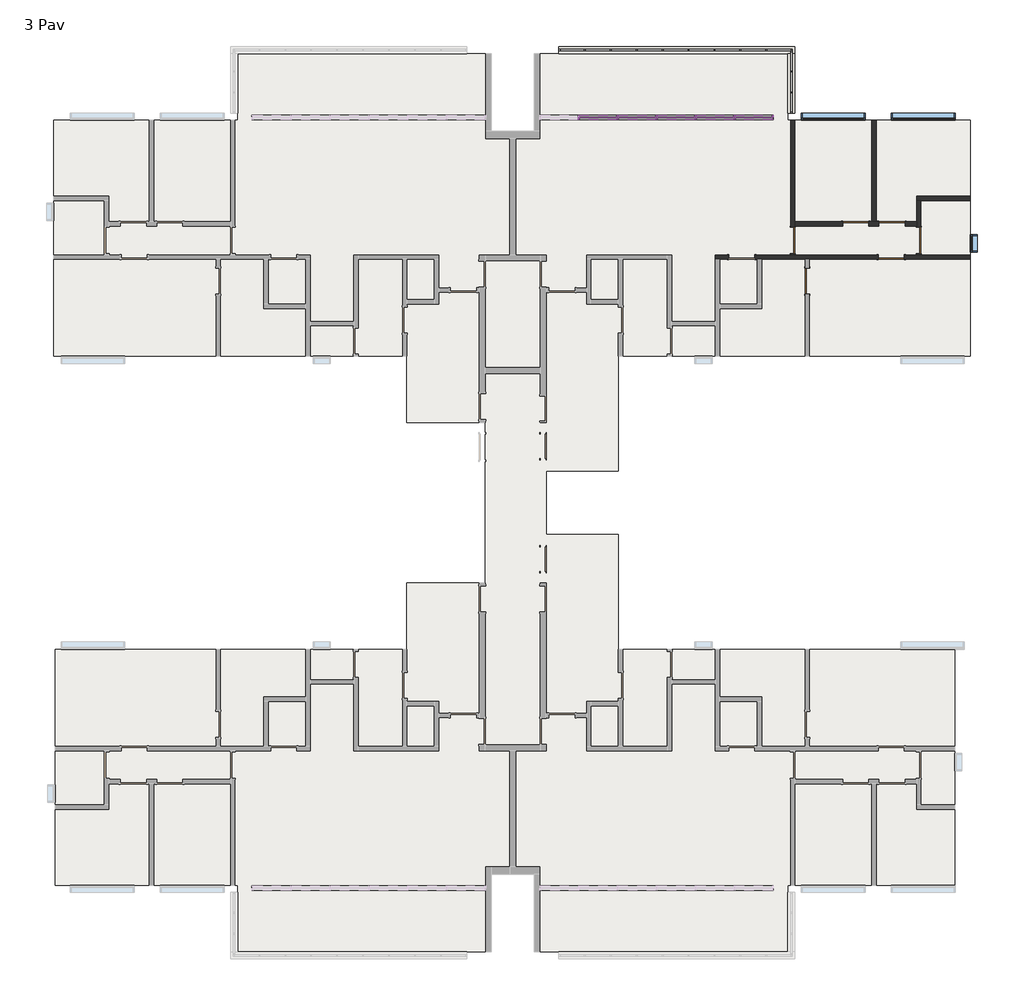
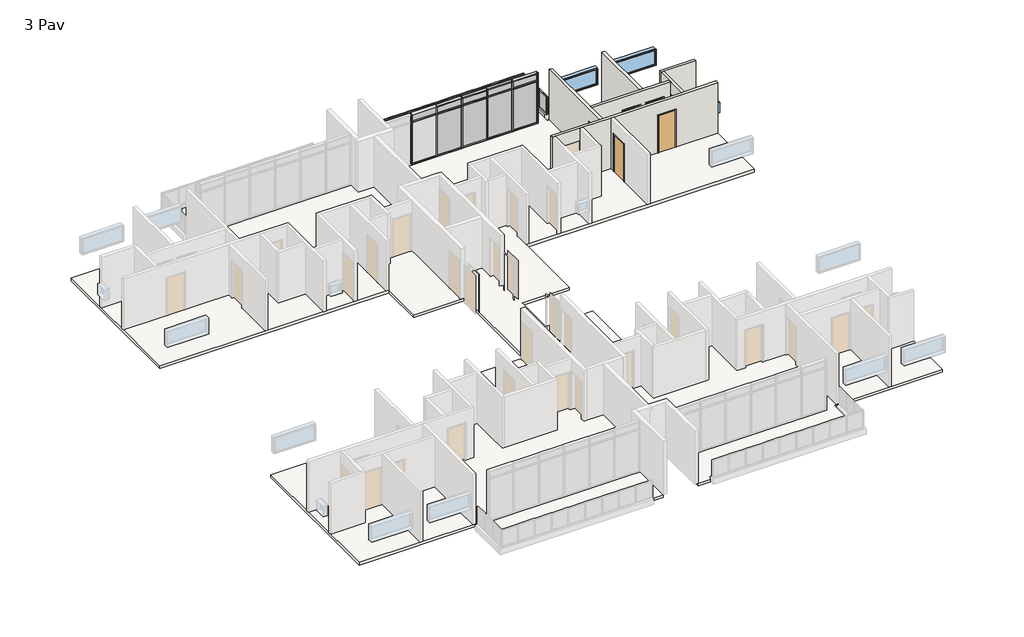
# One storey, part 6 of 6: 64 members, 21 plates, 8 walls, 6 doors, 3 windows, 1 slab.
"""IFC4 building model written with IfcOpenShell, lengths in millimetres."""

from ifc_helpers import new_model, si_unit, frame, origin, place, context, project, spatial, polyline, outline, extrude, faceted_brep, transform, mapped, element, save
from components import door_90_x_210_ee935524, door_90_x_210_565370b3, montante_retangular_50_mm_quadrado_84e40a56, montante_retangular_50_mm_quadrado_3d152aff, montante_retangular_50_mm_quadrado_a01005a4, montante_retangular_50_mm_quadrado_ddd80bd7, montante_retangular_50_mm_quadrado_4acded50, montante_retangular_50_mm_quadrado_237d7072, montante_retangular_50_x_150_mm_6217edde, montante_retangular_50_x_150_mm_a22249d7, montante_retangular_50_x_150_mm_6225e4e3, montante_retangular_50_x_150_mm_0a8c3443, montante_retangular_50_x_150_mm_567eccab, montante_retangular_50_x_150_mm_1ca2bba2, montante_retangular_50_x_150_mm_6abf4531, montante_retangular_50_x_150_mm_662c37b1, painel_do_sistema_0196877a, painel_do_sistema_2aa81470, painel_do_sistema_57ceaf50, painel_do_sistema_ab0ed719, painel_do_sistema_1ecb5f42, painel_do_sistema_49db1829, painel_do_sistema_5ea5287b, painel_do_sistema_7730abee, window_0610_x_0610_mm_b5667cc9, window_220_x_90_cea65aae

model = new_model("IFC4")

# Units and contexts
model_context = context("Model", 3, world=origin())
ifc_project = project(units=[si_unit("LENGTHUNIT", "METRE", prefix="MILLI")], contexts=[model_context])

# Site, building, storey
site = spatial("IfcSite", under=ifc_project)
building = spatial("IfcBuilding", under=site)
storey = spatial("IfcBuildingStorey", under=building, Name="3 Pav", Elevation=9000.0)

# Doors
placement = place(None, origin())
door_90_x_210_shape = door_90_x_210_ee935524(model_context)
element("IfcDoor", 1, ObjectType="M_Descarga simples : 90 x 210", at=placement, inside=storey, context=model_context, shape_type="MappedRepresentation", body=[
    mapped(door_90_x_210_shape, transform((9138.7734258, 8433.6614625, 9000.0), x_axis=(0.0, 1.0, 0.0), y_axis=(-1.0, 0.0, 0.0), z_axis=(0.0, 0.0, 1.0))),
])
element("IfcDoor", 2, ObjectType="M_Descarga simples : 90 x 210", at=placement, inside=storey, context=model_context, shape_type="MappedRepresentation", body=[
    mapped(door_90_x_210_shape, transform((8638.7734258, 9833.6614625, 9000.0), x_axis=(0.0, -1.0, 0.0), y_axis=(1.0, 0.0, 0.0), z_axis=(0.0, 0.0, 1.0))),
])
element("IfcDoor", 3, ObjectType="M_Descarga simples : 90 x 210", at=placement, inside=storey, context=model_context, shape_type="MappedRepresentation", body=[
    mapped(door_90_x_210_shape, transform((12988.7734258, 9833.6614625, 9000.0), x_axis=(0.0, -1.0, 0.0), y_axis=(1.0, 0.0, 0.0), z_axis=(0.0, 0.0, 1.0))),
])
element("IfcDoor", 4, ObjectType="M_Descarga simples : 90 x 210", at=placement, inside=storey, context=model_context, shape_type="MappedRepresentation", body=[
    mapped(door_90_x_210_shape, transform((10813.7734258, 10408.6614625, 9000.0), x_axis=(1.0, 0.0, 0.0), y_axis=(0.0, 1.0, 0.0), z_axis=(0.0, 0.0, 1.0))),
])
door_90_x_210_2_shape = door_90_x_210_565370b3(model_context)
element("IfcDoor", 5, ObjectType="M_Descarga simples : 90 x 210", at=placement, inside=storey, context=model_context, shape_type="MappedRepresentation", body=[
    mapped(door_90_x_210_2_shape, transform((12063.7734258, 10408.6614625, 9000.0), x_axis=(-1.0, 0.0, 0.0), y_axis=(0.0, -1.0, 0.0), z_axis=(0.0, 0.0, 1.0))),
])
element("IfcDoor", 6, ObjectType="M_Descarga simples : 90 x 210", at=placement, inside=storey, context=model_context, shape_type="MappedRepresentation", body=[
    mapped(door_90_x_210_2_shape, transform((12043.7734258, 9258.6614625, 9000.0), x_axis=(1.0, 0.0, 0.0), y_axis=(0.0, 1.0, 0.0), z_axis=(0.0, 0.0, 1.0))),
])

# Members
montante_retangular_50_mm_quadrado_shape = montante_retangular_50_mm_quadrado_84e40a56(model_context)
element("IfcMember", 7, ObjectType="Montante retangular : 50 mm Quadrado", at=placement, inside=storey, context=model_context, shape_type="MappedRepresentation", body=[
    mapped(montante_retangular_50_mm_quadrado_shape, transform((8588.7734258, 15663.6614625, 9150.0), x_axis=(0.0, -1.0, 0.0), y_axis=(-1.0, 0.0, 0.0), z_axis=(0.0, 0.0, -1.0))),
])
element("IfcMember", 8, ObjectType="Montante retangular : 50 mm Quadrado", at=placement, inside=storey, context=model_context, shape_type="MappedRepresentation", body=[
    mapped(montante_retangular_50_mm_quadrado_shape, transform((8588.7734258, 14948.6614625, 9150.0), x_axis=(0.0, -1.0, 0.0), y_axis=(-1.0, 0.0, 0.0), z_axis=(0.0, 0.0, -1.0))),
])
element("IfcMember", 9, ObjectType="Montante retangular : 50 mm Quadrado", at=placement, inside=storey, context=model_context, shape_type="MappedRepresentation", body=[
    mapped(montante_retangular_50_mm_quadrado_shape, transform((1453.7734258, 16403.6614625, 9150.0), x_axis=(1.0, 0.0, 0.0), y_axis=(0.0, -1.0, 0.0), z_axis=(0.0, 0.0, -1.0))),
])
element("IfcMember", 10, ObjectType="Montante retangular : 50 mm Quadrado", at=placement, inside=storey, context=model_context, shape_type="MappedRepresentation", body=[
    mapped(montante_retangular_50_mm_quadrado_shape, transform((2348.7734258, 16403.6614625, 9150.0), x_axis=(1.0, 0.0, 0.0), y_axis=(0.0, -1.0, 0.0), z_axis=(0.0, 0.0, -1.0))),
])
element("IfcMember", 11, ObjectType="Montante retangular : 50 mm Quadrado", at=placement, inside=storey, context=model_context, shape_type="MappedRepresentation", body=[
    mapped(montante_retangular_50_mm_quadrado_shape, transform((3243.7734258, 16403.6614625, 9150.0), x_axis=(1.0, 0.0, 0.0), y_axis=(0.0, -1.0, 0.0), z_axis=(0.0, 0.0, -1.0))),
])
element("IfcMember", 12, ObjectType="Montante retangular : 50 mm Quadrado", at=placement, inside=storey, context=model_context, shape_type="MappedRepresentation", body=[
    mapped(montante_retangular_50_mm_quadrado_shape, transform((4138.7734258, 16403.6614625, 9150.0), x_axis=(1.0, 0.0, 0.0), y_axis=(0.0, -1.0, 0.0), z_axis=(0.0, 0.0, -1.0))),
])
element("IfcMember", 13, ObjectType="Montante retangular : 50 mm Quadrado", at=placement, inside=storey, context=model_context, shape_type="MappedRepresentation", body=[
    mapped(montante_retangular_50_mm_quadrado_shape, transform((5033.7734258, 16403.6614625, 9150.0), x_axis=(1.0, 0.0, 0.0), y_axis=(0.0, -1.0, 0.0), z_axis=(0.0, 0.0, -1.0))),
])
element("IfcMember", 14, ObjectType="Montante retangular : 50 mm Quadrado", at=placement, inside=storey, context=model_context, shape_type="MappedRepresentation", body=[
    mapped(montante_retangular_50_mm_quadrado_shape, transform((5928.7734258, 16403.6614625, 9150.0), x_axis=(1.0, 0.0, 0.0), y_axis=(0.0, -1.0, 0.0), z_axis=(0.0, 0.0, -1.0))),
])
element("IfcMember", 15, ObjectType="Montante retangular : 50 mm Quadrado", at=placement, inside=storey, context=model_context, shape_type="MappedRepresentation", body=[
    mapped(montante_retangular_50_mm_quadrado_shape, transform((6823.7734258, 16403.6614625, 9150.0), x_axis=(1.0, 0.0, 0.0), y_axis=(0.0, -1.0, 0.0), z_axis=(0.0, 0.0, -1.0))),
])
element("IfcMember", 16, ObjectType="Montante retangular : 50 mm Quadrado", at=placement, inside=storey, context=model_context, shape_type="MappedRepresentation", body=[
    mapped(montante_retangular_50_mm_quadrado_shape, transform((7718.7734258, 16403.6614625, 9150.0), x_axis=(1.0, 0.0, 0.0), y_axis=(0.0, -1.0, 0.0), z_axis=(0.0, 0.0, -1.0))),
])
montante_retangular_50_mm_quadrado_2_shape = montante_retangular_50_mm_quadrado_3d152aff(model_context)
element("IfcMember", 17, ObjectType="Montante retangular : 50 mm Quadrado", at=placement, inside=storey, context=model_context, shape_type="MappedRepresentation", body=[
    mapped(montante_retangular_50_mm_quadrado_2_shape, transform((8588.7734258, 14233.6614625, 9150.0), x_axis=(0.0, -1.0, 0.0), y_axis=(-1.0, 0.0, 0.0), z_axis=(0.0, 0.0, -1.0))),
])
element("IfcMember", 18, ObjectType="Montante retangular : 50 mm Quadrado", at=placement, inside=storey, context=model_context, shape_type="MappedRepresentation", body=[
    mapped(montante_retangular_50_mm_quadrado_2_shape, transform((8613.7734258, 16403.6614625, 9150.0), x_axis=(1.0, 0.0, 0.0), y_axis=(0.0, -1.0, 0.0), z_axis=(0.0, 0.0, -1.0))),
])
element("IfcMember", 19, ObjectType="Montante retangular : 50 mm Quadrado", at=placement, inside=storey, context=model_context, shape_type="MappedRepresentation", body=[
    mapped(montante_retangular_50_mm_quadrado_2_shape, transform((8588.7734258, 16378.6614625, 10150.0), x_axis=(0.0, 1.0, 0.0), y_axis=(-1.0, 0.0, 0.0), z_axis=(0.0, 0.0, 1.0))),
])
element("IfcMember", 20, ObjectType="Montante retangular : 50 mm Quadrado", at=placement, inside=storey, context=model_context, shape_type="MappedRepresentation", body=[
    mapped(montante_retangular_50_mm_quadrado_2_shape, transform((558.7734258, 16403.6614625, 10150.0), x_axis=(-1.0, 0.0, 0.0), y_axis=(0.0, -1.0, 0.0), z_axis=(0.0, 0.0, 1.0))),
])
montante_retangular_50_mm_quadrado_3_shape = montante_retangular_50_mm_quadrado_a01005a4(model_context)
element("IfcMember", 21, ObjectType="Montante retangular : 50 mm Quadrado", at=placement, inside=storey, context=model_context, shape_type="MappedRepresentation", body=[
    mapped(montante_retangular_50_mm_quadrado_3_shape, transform((8588.7734258, 14283.6614625, 10150.0), x_axis=(0.0, 0.0, 1.0), y_axis=(-1.0, 0.0, 0.0), z_axis=(0.0, -1.0, 0.0))),
])
element("IfcMember", 22, ObjectType="Montante retangular : 50 mm Quadrado", at=placement, inside=storey, context=model_context, shape_type="MappedRepresentation", body=[
    mapped(montante_retangular_50_mm_quadrado_3_shape, transform((8588.7734258, 15688.6614625, 10150.0), x_axis=(0.0, 0.0, 1.0), y_axis=(-1.0, 0.0, 0.0), z_axis=(0.0, -1.0, 0.0))),
])
montante_retangular_50_mm_quadrado_4_shape = montante_retangular_50_mm_quadrado_ddd80bd7(model_context)
element("IfcMember", 23, ObjectType="Montante retangular : 50 mm Quadrado", at=placement, inside=storey, context=model_context, shape_type="MappedRepresentation", body=[
    mapped(montante_retangular_50_mm_quadrado_4_shape, transform((8588.7734258, 14973.6614625, 10150.0), x_axis=(0.0, 0.0, 1.0), y_axis=(-1.0, 0.0, 0.0), z_axis=(0.0, -1.0, 0.0))),
])
element("IfcMember", 24, ObjectType="Montante retangular : 50 mm Quadrado", at=placement, inside=storey, context=model_context, shape_type="MappedRepresentation", body=[
    mapped(montante_retangular_50_mm_quadrado_3_shape, transform((8588.7734258, 16328.6614625, 9150.0), x_axis=(0.0, 0.0, -1.0), y_axis=(-1.0, 0.0, 0.0), z_axis=(0.0, 1.0, 0.0))),
])
element("IfcMember", 25, ObjectType="Montante retangular : 50 mm Quadrado", at=placement, inside=storey, context=model_context, shape_type="MappedRepresentation", body=[
    mapped(montante_retangular_50_mm_quadrado_3_shape, transform((8588.7734258, 14923.6614625, 9150.0), x_axis=(0.0, 0.0, -1.0), y_axis=(-1.0, 0.0, 0.0), z_axis=(0.0, 1.0, 0.0))),
])
element("IfcMember", 26, ObjectType="Montante retangular : 50 mm Quadrado", at=placement, inside=storey, context=model_context, shape_type="MappedRepresentation", body=[
    mapped(montante_retangular_50_mm_quadrado_4_shape, transform((8588.7734258, 15638.6614625, 9150.0), x_axis=(0.0, 0.0, -1.0), y_axis=(-1.0, 0.0, 0.0), z_axis=(0.0, 1.0, 0.0))),
])
montante_retangular_50_mm_quadrado_5_shape = montante_retangular_50_mm_quadrado_4acded50(model_context)
element("IfcMember", 27, ObjectType="Montante retangular : 50 mm Quadrado", at=placement, inside=storey, context=model_context, shape_type="MappedRepresentation", body=[
    mapped(montante_retangular_50_mm_quadrado_5_shape, transform((8563.7734258, 16403.6614625, 10150.0), x_axis=(0.0, 0.0, 1.0), y_axis=(0.0, -1.0, 0.0), z_axis=(1.0, 0.0, 0.0))),
])
element("IfcMember", 28, ObjectType="Montante retangular : 50 mm Quadrado", at=placement, inside=storey, context=model_context, shape_type="MappedRepresentation", body=[
    mapped(montante_retangular_50_mm_quadrado_5_shape, transform((1428.7734258, 16403.6614625, 10150.0), x_axis=(0.0, 0.0, 1.0), y_axis=(0.0, -1.0, 0.0), z_axis=(1.0, 0.0, 0.0))),
])
montante_retangular_50_mm_quadrado_6_shape = montante_retangular_50_mm_quadrado_237d7072(model_context)
element("IfcMember", 29, ObjectType="Montante retangular : 50 mm Quadrado", at=placement, inside=storey, context=model_context, shape_type="MappedRepresentation", body=[
    mapped(montante_retangular_50_mm_quadrado_6_shape, transform((2323.7734258, 16403.6614625, 10150.0), x_axis=(0.0, 0.0, 1.0), y_axis=(0.0, -1.0, 0.0), z_axis=(1.0, 0.0, 0.0))),
])
element("IfcMember", 30, ObjectType="Montante retangular : 50 mm Quadrado", at=placement, inside=storey, context=model_context, shape_type="MappedRepresentation", body=[
    mapped(montante_retangular_50_mm_quadrado_6_shape, transform((3218.7734258, 16403.6614625, 10150.0), x_axis=(0.0, 0.0, 1.0), y_axis=(0.0, -1.0, 0.0), z_axis=(1.0, 0.0, 0.0))),
])
element("IfcMember", 31, ObjectType="Montante retangular : 50 mm Quadrado", at=placement, inside=storey, context=model_context, shape_type="MappedRepresentation", body=[
    mapped(montante_retangular_50_mm_quadrado_6_shape, transform((4113.7734258, 16403.6614625, 10150.0), x_axis=(0.0, 0.0, 1.0), y_axis=(0.0, -1.0, 0.0), z_axis=(1.0, 0.0, 0.0))),
])
element("IfcMember", 32, ObjectType="Montante retangular : 50 mm Quadrado", at=placement, inside=storey, context=model_context, shape_type="MappedRepresentation", body=[
    mapped(montante_retangular_50_mm_quadrado_6_shape, transform((5008.7734258, 16403.6614625, 10150.0), x_axis=(0.0, 0.0, 1.0), y_axis=(0.0, -1.0, 0.0), z_axis=(1.0, 0.0, 0.0))),
])
element("IfcMember", 33, ObjectType="Montante retangular : 50 mm Quadrado", at=placement, inside=storey, context=model_context, shape_type="MappedRepresentation", body=[
    mapped(montante_retangular_50_mm_quadrado_6_shape, transform((5903.7734258, 16403.6614625, 10150.0), x_axis=(0.0, 0.0, 1.0), y_axis=(0.0, -1.0, 0.0), z_axis=(1.0, 0.0, 0.0))),
])
element("IfcMember", 34, ObjectType="Montante retangular : 50 mm Quadrado", at=placement, inside=storey, context=model_context, shape_type="MappedRepresentation", body=[
    mapped(montante_retangular_50_mm_quadrado_6_shape, transform((6798.7734258, 16403.6614625, 10150.0), x_axis=(0.0, 0.0, 1.0), y_axis=(0.0, -1.0, 0.0), z_axis=(1.0, 0.0, 0.0))),
])
element("IfcMember", 35, ObjectType="Montante retangular : 50 mm Quadrado", at=placement, inside=storey, context=model_context, shape_type="MappedRepresentation", body=[
    mapped(montante_retangular_50_mm_quadrado_6_shape, transform((7693.7734258, 16403.6614625, 10150.0), x_axis=(0.0, 0.0, 1.0), y_axis=(0.0, -1.0, 0.0), z_axis=(1.0, 0.0, 0.0))),
])
element("IfcMember", 36, ObjectType="Montante retangular : 50 mm Quadrado", at=placement, inside=storey, context=model_context, shape_type="MappedRepresentation", body=[
    mapped(montante_retangular_50_mm_quadrado_5_shape, transform((608.7734258, 16403.6614625, 9150.0), x_axis=(0.0, 0.0, -1.0), y_axis=(0.0, -1.0, 0.0), z_axis=(-1.0, 0.0, 0.0))),
])
element("IfcMember", 37, ObjectType="Montante retangular : 50 mm Quadrado", at=placement, inside=storey, context=model_context, shape_type="MappedRepresentation", body=[
    mapped(montante_retangular_50_mm_quadrado_5_shape, transform((7743.7734258, 16403.6614625, 9150.0), x_axis=(0.0, 0.0, -1.0), y_axis=(0.0, -1.0, 0.0), z_axis=(-1.0, 0.0, 0.0))),
])
element("IfcMember", 38, ObjectType="Montante retangular : 50 mm Quadrado", at=placement, inside=storey, context=model_context, shape_type="MappedRepresentation", body=[
    mapped(montante_retangular_50_mm_quadrado_6_shape, transform((1478.7734258, 16403.6614625, 9150.0), x_axis=(0.0, 0.0, -1.0), y_axis=(0.0, -1.0, 0.0), z_axis=(-1.0, 0.0, 0.0))),
])
element("IfcMember", 39, ObjectType="Montante retangular : 50 mm Quadrado", at=placement, inside=storey, context=model_context, shape_type="MappedRepresentation", body=[
    mapped(montante_retangular_50_mm_quadrado_6_shape, transform((2373.7734258, 16403.6614625, 9150.0), x_axis=(0.0, 0.0, -1.0), y_axis=(0.0, -1.0, 0.0), z_axis=(-1.0, 0.0, 0.0))),
])
element("IfcMember", 40, ObjectType="Montante retangular : 50 mm Quadrado", at=placement, inside=storey, context=model_context, shape_type="MappedRepresentation", body=[
    mapped(montante_retangular_50_mm_quadrado_6_shape, transform((3268.7734258, 16403.6614625, 9150.0), x_axis=(0.0, 0.0, -1.0), y_axis=(0.0, -1.0, 0.0), z_axis=(-1.0, 0.0, 0.0))),
])
element("IfcMember", 41, ObjectType="Montante retangular : 50 mm Quadrado", at=placement, inside=storey, context=model_context, shape_type="MappedRepresentation", body=[
    mapped(montante_retangular_50_mm_quadrado_6_shape, transform((4163.7734258, 16403.6614625, 9150.0), x_axis=(0.0, 0.0, -1.0), y_axis=(0.0, -1.0, 0.0), z_axis=(-1.0, 0.0, 0.0))),
])
element("IfcMember", 42, ObjectType="Montante retangular : 50 mm Quadrado", at=placement, inside=storey, context=model_context, shape_type="MappedRepresentation", body=[
    mapped(montante_retangular_50_mm_quadrado_6_shape, transform((5058.7734258, 16403.6614625, 9150.0), x_axis=(0.0, 0.0, -1.0), y_axis=(0.0, -1.0, 0.0), z_axis=(-1.0, 0.0, 0.0))),
])
element("IfcMember", 43, ObjectType="Montante retangular : 50 mm Quadrado", at=placement, inside=storey, context=model_context, shape_type="MappedRepresentation", body=[
    mapped(montante_retangular_50_mm_quadrado_6_shape, transform((5953.7734258, 16403.6614625, 9150.0), x_axis=(0.0, 0.0, -1.0), y_axis=(0.0, -1.0, 0.0), z_axis=(-1.0, 0.0, 0.0))),
])
element("IfcMember", 44, ObjectType="Montante retangular : 50 mm Quadrado", at=placement, inside=storey, context=model_context, shape_type="MappedRepresentation", body=[
    mapped(montante_retangular_50_mm_quadrado_6_shape, transform((6848.7734258, 16403.6614625, 9150.0), x_axis=(0.0, 0.0, -1.0), y_axis=(0.0, -1.0, 0.0), z_axis=(-1.0, 0.0, 0.0))),
])
montante_retangular_50_x_150_mm_shape = montante_retangular_50_x_150_mm_6217edde(model_context)
element("IfcMember", 45, ObjectType="Montante retangular : 50 x 150 mm", at=placement, inside=storey, context=model_context, shape_type="MappedRepresentation", body=[
    mapped(montante_retangular_50_x_150_mm_shape, transform((6654.6067592, 14083.6614625, 11850.0), x_axis=(0.0, 0.0, 1.0), y_axis=(0.0, 1.0, 0.0), z_axis=(-1.0, 0.0, 0.0))),
])
montante_retangular_50_x_150_mm_2_shape = montante_retangular_50_x_150_mm_a22249d7(model_context)
element("IfcMember", 46, ObjectType="Montante retangular : 50 x 150 mm", at=placement, inside=storey, context=model_context, shape_type="MappedRepresentation", body=[
    mapped(montante_retangular_50_x_150_mm_2_shape, transform((5310.4400925, 14083.6614625, 11850.0), x_axis=(0.0, 0.0, 1.0), y_axis=(0.0, 1.0, 0.0), z_axis=(-1.0, 0.0, 0.0))),
])
element("IfcMember", 47, ObjectType="Montante retangular : 50 x 150 mm", at=placement, inside=storey, context=model_context, shape_type="MappedRepresentation", body=[
    mapped(montante_retangular_50_x_150_mm_2_shape, transform((3966.2734258, 14083.6614625, 11850.0), x_axis=(0.0, 0.0, 1.0), y_axis=(0.0, 1.0, 0.0), z_axis=(-1.0, 0.0, 0.0))),
])
element("IfcMember", 48, ObjectType="Montante retangular : 50 x 150 mm", at=placement, inside=storey, context=model_context, shape_type="MappedRepresentation", body=[
    mapped(montante_retangular_50_x_150_mm_2_shape, transform((2622.1067592, 14083.6614625, 11850.0), x_axis=(0.0, 0.0, 1.0), y_axis=(0.0, 1.0, 0.0), z_axis=(-1.0, 0.0, 0.0))),
])
element("IfcMember", 49, ObjectType="Montante retangular : 50 x 150 mm", at=placement, inside=storey, context=model_context, shape_type="MappedRepresentation", body=[
    mapped(montante_retangular_50_x_150_mm_shape, transform((7923.7734258, 14083.6614625, 9000.0), x_axis=(0.0, 0.0, -1.0), y_axis=(0.0, 1.0, 0.0), z_axis=(1.0, 0.0, 0.0))),
])
element("IfcMember", 50, ObjectType="Montante retangular : 50 x 150 mm", at=placement, inside=storey, context=model_context, shape_type="MappedRepresentation", body=[
    mapped(montante_retangular_50_x_150_mm_2_shape, transform((6604.6067592, 14083.6614625, 9000.0), x_axis=(0.0, 0.0, -1.0), y_axis=(0.0, 1.0, 0.0), z_axis=(1.0, 0.0, 0.0))),
])
element("IfcMember", 51, ObjectType="Montante retangular : 50 x 150 mm", at=placement, inside=storey, context=model_context, shape_type="MappedRepresentation", body=[
    mapped(montante_retangular_50_x_150_mm_2_shape, transform((5260.4400925, 14083.6614625, 9000.0), x_axis=(0.0, 0.0, -1.0), y_axis=(0.0, 1.0, 0.0), z_axis=(1.0, 0.0, 0.0))),
])
element("IfcMember", 52, ObjectType="Montante retangular : 50 x 150 mm", at=placement, inside=storey, context=model_context, shape_type="MappedRepresentation", body=[
    mapped(montante_retangular_50_x_150_mm_2_shape, transform((3916.2734258, 14083.6614625, 9000.0), x_axis=(0.0, 0.0, -1.0), y_axis=(0.0, 1.0, 0.0), z_axis=(1.0, 0.0, 0.0))),
])
element("IfcMember", 53, ObjectType="Montante retangular : 50 x 150 mm", at=placement, inside=storey, context=model_context, shape_type="MappedRepresentation", body=[
    mapped(montante_retangular_50_x_150_mm_2_shape, transform((2572.1067592, 14083.6614625, 9000.0), x_axis=(0.0, 0.0, -1.0), y_axis=(0.0, 1.0, 0.0), z_axis=(1.0, 0.0, 0.0))),
])
montante_retangular_50_x_150_mm_3_shape = montante_retangular_50_x_150_mm_6225e4e3(model_context)
element("IfcMember", 54, ObjectType="Montante retangular : 50 x 150 mm", at=placement, inside=storey, context=model_context, shape_type="MappedRepresentation", body=[
    mapped(montante_retangular_50_x_150_mm_3_shape, transform((6629.6067592, 14083.6614625, 9000.0), x_axis=(-1.0, 0.0, 0.0), y_axis=(0.0, 1.0, 0.0), z_axis=(0.0, 0.0, -1.0))),
])
element("IfcMember", 55, ObjectType="Montante retangular : 50 x 150 mm", at=placement, inside=storey, context=model_context, shape_type="MappedRepresentation", body=[
    mapped(montante_retangular_50_x_150_mm_3_shape, transform((5285.4400925, 14083.6614625, 9000.0), x_axis=(-1.0, 0.0, 0.0), y_axis=(0.0, 1.0, 0.0), z_axis=(0.0, 0.0, -1.0))),
])
element("IfcMember", 56, ObjectType="Montante retangular : 50 x 150 mm", at=placement, inside=storey, context=model_context, shape_type="MappedRepresentation", body=[
    mapped(montante_retangular_50_x_150_mm_3_shape, transform((3941.2734258, 14083.6614625, 9000.0), x_axis=(-1.0, 0.0, 0.0), y_axis=(0.0, 1.0, 0.0), z_axis=(0.0, 0.0, -1.0))),
])
element("IfcMember", 57, ObjectType="Montante retangular : 50 x 150 mm", at=placement, inside=storey, context=model_context, shape_type="MappedRepresentation", body=[
    mapped(montante_retangular_50_x_150_mm_3_shape, transform((2597.1067592, 14083.6614625, 9000.0), x_axis=(-1.0, 0.0, 0.0), y_axis=(0.0, 1.0, 0.0), z_axis=(0.0, 0.0, -1.0))),
])
element("IfcMember", 58, ObjectType="Montante retangular : 50 x 150 mm", at=placement, inside=storey, context=model_context, shape_type="MappedRepresentation", body=[
    mapped(montante_retangular_50_x_150_mm_3_shape, transform((1252.9400925, 14083.6614625, 9000.0), x_axis=(-1.0, 0.0, 0.0), y_axis=(0.0, 1.0, 0.0), z_axis=(0.0, 0.0, -1.0))),
])
montante_retangular_50_x_150_mm_4_shape = montante_retangular_50_x_150_mm_0a8c3443(model_context)
element("IfcMember", 59, ObjectType="Montante retangular : 50 x 150 mm", at=placement, inside=storey, context=model_context, shape_type="MappedRepresentation", body=[
    mapped(montante_retangular_50_x_150_mm_4_shape, transform((7973.7734258, 14083.6614625, 11850.0), x_axis=(1.0, 0.0, 0.0), y_axis=(0.0, 1.0, 0.0), z_axis=(0.0, 0.0, 1.0))),
])
montante_retangular_50_x_150_mm_5_shape = montante_retangular_50_x_150_mm_567eccab(model_context)
element("IfcMember", 60, ObjectType="Montante retangular : 50 x 150 mm", at=placement, inside=storey, context=model_context, shape_type="MappedRepresentation", body=[
    mapped(montante_retangular_50_x_150_mm_5_shape, transform((6629.6067592, 14083.6614625, 11400.0), x_axis=(-1.0, 0.0, 0.0), y_axis=(0.0, 1.0, 0.0), z_axis=(0.0, 0.0, -1.0))),
])
element("IfcMember", 61, ObjectType="Montante retangular : 50 x 150 mm", at=placement, inside=storey, context=model_context, shape_type="MappedRepresentation", body=[
    mapped(montante_retangular_50_x_150_mm_5_shape, transform((5285.4400925, 14083.6614625, 11400.0), x_axis=(-1.0, 0.0, 0.0), y_axis=(0.0, 1.0, 0.0), z_axis=(0.0, 0.0, -1.0))),
])
element("IfcMember", 62, ObjectType="Montante retangular : 50 x 150 mm", at=placement, inside=storey, context=model_context, shape_type="MappedRepresentation", body=[
    mapped(montante_retangular_50_x_150_mm_5_shape, transform((3941.2734258, 14083.6614625, 11400.0), x_axis=(-1.0, 0.0, 0.0), y_axis=(0.0, 1.0, 0.0), z_axis=(0.0, 0.0, -1.0))),
])
element("IfcMember", 63, ObjectType="Montante retangular : 50 x 150 mm", at=placement, inside=storey, context=model_context, shape_type="MappedRepresentation", body=[
    mapped(montante_retangular_50_x_150_mm_5_shape, transform((2597.1067592, 14083.6614625, 11400.0), x_axis=(-1.0, 0.0, 0.0), y_axis=(0.0, 1.0, 0.0), z_axis=(0.0, 0.0, -1.0))),
])
element("IfcMember", 64, ObjectType="Montante retangular : 50 x 150 mm", at=placement, inside=storey, context=model_context, shape_type="MappedRepresentation", body=[
    mapped(montante_retangular_50_x_150_mm_5_shape, transform((1252.9400925, 14083.6614625, 11400.0), x_axis=(-1.0, 0.0, 0.0), y_axis=(0.0, 1.0, 0.0), z_axis=(0.0, 0.0, -1.0))),
])
montante_retangular_50_x_150_mm_6_shape = montante_retangular_50_x_150_mm_1ca2bba2(model_context)
element("IfcMember", 65, ObjectType="Montante retangular : 50 x 150 mm", at=placement, inside=storey, context=model_context, shape_type="MappedRepresentation", body=[
    mapped(montante_retangular_50_x_150_mm_6_shape, transform((6654.6067592, 14083.6614625, 11400.0), x_axis=(0.0, 0.0, 1.0), y_axis=(0.0, 1.0, 0.0), z_axis=(-1.0, 0.0, 0.0))),
])
montante_retangular_50_x_150_mm_7_shape = montante_retangular_50_x_150_mm_6abf4531(model_context)
element("IfcMember", 66, ObjectType="Montante retangular : 50 x 150 mm", at=placement, inside=storey, context=model_context, shape_type="MappedRepresentation", body=[
    mapped(montante_retangular_50_x_150_mm_7_shape, transform((5310.4400925, 14083.6614625, 11400.0), x_axis=(0.0, 0.0, 1.0), y_axis=(0.0, 1.0, 0.0), z_axis=(-1.0, 0.0, 0.0))),
])
element("IfcMember", 67, ObjectType="Montante retangular : 50 x 150 mm", at=placement, inside=storey, context=model_context, shape_type="MappedRepresentation", body=[
    mapped(montante_retangular_50_x_150_mm_7_shape, transform((3966.2734258, 14083.6614625, 11400.0), x_axis=(0.0, 0.0, 1.0), y_axis=(0.0, 1.0, 0.0), z_axis=(-1.0, 0.0, 0.0))),
])
element("IfcMember", 68, ObjectType="Montante retangular : 50 x 150 mm", at=placement, inside=storey, context=model_context, shape_type="MappedRepresentation", body=[
    mapped(montante_retangular_50_x_150_mm_7_shape, transform((2622.1067592, 14083.6614625, 11400.0), x_axis=(0.0, 0.0, 1.0), y_axis=(0.0, 1.0, 0.0), z_axis=(-1.0, 0.0, 0.0))),
])
element("IfcMember", 69, ObjectType="Montante retangular : 50 x 150 mm", at=placement, inside=storey, context=model_context, shape_type="MappedRepresentation", body=[
    mapped(montante_retangular_50_x_150_mm_7_shape, transform((1277.9400925, 14083.6614625, 11400.0), x_axis=(0.0, 0.0, 1.0), y_axis=(0.0, 1.0, 0.0), z_axis=(-1.0, 0.0, 0.0))),
])
montante_retangular_50_x_150_mm_8_shape = montante_retangular_50_x_150_mm_662c37b1(model_context)
element("IfcMember", 70, ObjectType="Montante retangular : 50 x 150 mm", at=placement, inside=storey, context=model_context, shape_type="MappedRepresentation", body=[
    mapped(montante_retangular_50_x_150_mm_8_shape, transform((7973.7734258, 14083.6614625, 11400.0), x_axis=(1.0, 0.0, 0.0), y_axis=(0.0, 1.0, 0.0), z_axis=(0.0, 0.0, 1.0))),
])

# Plates
painel_do_sistema_shape = painel_do_sistema_0196877a(model_context)
element("IfcPlate", 71, ObjectType="Painel do sistema : Envidraçado", at=placement, inside=storey, context=model_context, shape_type="MappedRepresentation", body=[
    mapped(painel_do_sistema_shape, transform((8588.7734258, 16008.6614625, 9200.0), x_axis=(0.0, -1.0, 0.0), y_axis=(1.0, 0.0, 0.0), z_axis=(0.0, 0.0, 1.0))),
])
element("IfcPlate", 72, ObjectType="Painel do sistema : Envidraçado", at=placement, inside=storey, context=model_context, shape_type="MappedRepresentation", body=[
    mapped(painel_do_sistema_shape, transform((8588.7734258, 14603.6614625, 9200.0), x_axis=(0.0, -1.0, 0.0), y_axis=(1.0, 0.0, 0.0), z_axis=(0.0, 0.0, 1.0))),
])
painel_do_sistema_2_shape = painel_do_sistema_2aa81470(model_context)
element("IfcPlate", 73, ObjectType="Painel do sistema : Envidraçado", at=placement, inside=storey, context=model_context, shape_type="MappedRepresentation", body=[
    mapped(painel_do_sistema_2_shape, transform((8588.7734258, 15306.1614625, 9200.0), x_axis=(0.0, -1.0, 0.0), y_axis=(1.0, 0.0, 0.0), z_axis=(0.0, 0.0, 1.0))),
])
painel_do_sistema_3_shape = painel_do_sistema_57ceaf50(model_context)
element("IfcPlate", 74, ObjectType="Painel do sistema : Envidraçado", at=placement, inside=storey, context=model_context, shape_type="MappedRepresentation", body=[
    mapped(painel_do_sistema_3_shape, transform((1018.7734258, 16403.6614625, 9200.0), x_axis=(1.0, 0.0, 0.0), y_axis=(0.0, 1.0, 0.0), z_axis=(0.0, 0.0, 1.0))),
])
element("IfcPlate", 75, ObjectType="Painel do sistema : Envidraçado", at=placement, inside=storey, context=model_context, shape_type="MappedRepresentation", body=[
    mapped(painel_do_sistema_3_shape, transform((8153.7734258, 16403.6614625, 9200.0), x_axis=(1.0, 0.0, 0.0), y_axis=(0.0, 1.0, 0.0), z_axis=(0.0, 0.0, 1.0))),
])
painel_do_sistema_4_shape = painel_do_sistema_ab0ed719(model_context)
element("IfcPlate", 76, ObjectType="Painel do sistema : Envidraçado", at=placement, inside=storey, context=model_context, shape_type="MappedRepresentation", body=[
    mapped(painel_do_sistema_4_shape, transform((1901.2734258, 16403.6614625, 9200.0), x_axis=(1.0, 0.0, 0.0), y_axis=(0.0, 1.0, 0.0), z_axis=(0.0, 0.0, 1.0))),
])
element("IfcPlate", 77, ObjectType="Painel do sistema : Envidraçado", at=placement, inside=storey, context=model_context, shape_type="MappedRepresentation", body=[
    mapped(painel_do_sistema_4_shape, transform((2796.2734258, 16403.6614625, 9200.0), x_axis=(1.0, 0.0, 0.0), y_axis=(0.0, 1.0, 0.0), z_axis=(0.0, 0.0, 1.0))),
])
element("IfcPlate", 78, ObjectType="Painel do sistema : Envidraçado", at=placement, inside=storey, context=model_context, shape_type="MappedRepresentation", body=[
    mapped(painel_do_sistema_4_shape, transform((3691.2734258, 16403.6614625, 9200.0), x_axis=(1.0, 0.0, 0.0), y_axis=(0.0, 1.0, 0.0), z_axis=(0.0, 0.0, 1.0))),
])
element("IfcPlate", 79, ObjectType="Painel do sistema : Envidraçado", at=placement, inside=storey, context=model_context, shape_type="MappedRepresentation", body=[
    mapped(painel_do_sistema_4_shape, transform((4586.2734258, 16403.6614625, 9200.0), x_axis=(1.0, 0.0, 0.0), y_axis=(0.0, 1.0, 0.0), z_axis=(0.0, 0.0, 1.0))),
])
element("IfcPlate", 80, ObjectType="Painel do sistema : Envidraçado", at=placement, inside=storey, context=model_context, shape_type="MappedRepresentation", body=[
    mapped(painel_do_sistema_4_shape, transform((5481.2734258, 16403.6614625, 9200.0), x_axis=(1.0, 0.0, 0.0), y_axis=(0.0, 1.0, 0.0), z_axis=(0.0, 0.0, 1.0))),
])
element("IfcPlate", 81, ObjectType="Painel do sistema : Envidraçado", at=placement, inside=storey, context=model_context, shape_type="MappedRepresentation", body=[
    mapped(painel_do_sistema_4_shape, transform((6376.2734258, 16403.6614625, 9200.0), x_axis=(1.0, 0.0, 0.0), y_axis=(0.0, 1.0, 0.0), z_axis=(0.0, 0.0, 1.0))),
])
element("IfcPlate", 82, ObjectType="Painel do sistema : Envidraçado", at=placement, inside=storey, context=model_context, shape_type="MappedRepresentation", body=[
    mapped(painel_do_sistema_4_shape, transform((7271.2734258, 16403.6614625, 9200.0), x_axis=(1.0, 0.0, 0.0), y_axis=(0.0, 1.0, 0.0), z_axis=(0.0, 0.0, 1.0))),
])
painel_do_sistema_5_shape = painel_do_sistema_1ecb5f42(model_context)
element("IfcPlate", 83, ObjectType="Painel do sistema : Envidraçado", at=placement, inside=storey, context=model_context, shape_type="MappedRepresentation", body=[
    mapped(painel_do_sistema_5_shape, transform((7289.1900925, 14083.6614625, 9050.0), x_axis=(-1.0, 0.0, 0.0), y_axis=(0.0, -1.0, 0.0), z_axis=(0.0, 0.0, 1.0))),
])
painel_do_sistema_6_shape = painel_do_sistema_49db1829(model_context)
element("IfcPlate", 84, ObjectType="Painel do sistema : Envidraçado", at=placement, inside=storey, context=model_context, shape_type="MappedRepresentation", body=[
    mapped(painel_do_sistema_6_shape, transform((5957.5234258, 14083.6614625, 9050.0), x_axis=(-1.0, 0.0, 0.0), y_axis=(0.0, -1.0, 0.0), z_axis=(0.0, 0.0, 1.0))),
])
element("IfcPlate", 85, ObjectType="Painel do sistema : Envidraçado", at=placement, inside=storey, context=model_context, shape_type="MappedRepresentation", body=[
    mapped(painel_do_sistema_6_shape, transform((4613.3567592, 14083.6614625, 9050.0), x_axis=(-1.0, 0.0, 0.0), y_axis=(0.0, -1.0, 0.0), z_axis=(0.0, 0.0, 1.0))),
])
element("IfcPlate", 86, ObjectType="Painel do sistema : Envidraçado", at=placement, inside=storey, context=model_context, shape_type="MappedRepresentation", body=[
    mapped(painel_do_sistema_6_shape, transform((3269.1900925, 14083.6614625, 9050.0), x_axis=(-1.0, 0.0, 0.0), y_axis=(0.0, -1.0, 0.0), z_axis=(0.0, 0.0, 1.0))),
])
painel_do_sistema_7_shape = painel_do_sistema_5ea5287b(model_context)
element("IfcPlate", 87, ObjectType="Painel do sistema : Envidraçado", at=placement, inside=storey, context=model_context, shape_type="MappedRepresentation", body=[
    mapped(painel_do_sistema_7_shape, transform((7289.1900925, 14083.6614625, 11425.0), x_axis=(-1.0, 0.0, 0.0), y_axis=(0.0, -1.0, 0.0), z_axis=(0.0, 0.0, 1.0))),
])
painel_do_sistema_8_shape = painel_do_sistema_7730abee(model_context)
element("IfcPlate", 88, ObjectType="Painel do sistema : Envidraçado", at=placement, inside=storey, context=model_context, shape_type="MappedRepresentation", body=[
    mapped(painel_do_sistema_8_shape, transform((5957.5234258, 14083.6614625, 11425.0), x_axis=(-1.0, 0.0, 0.0), y_axis=(0.0, -1.0, 0.0), z_axis=(0.0, 0.0, 1.0))),
])
element("IfcPlate", 89, ObjectType="Painel do sistema : Envidraçado", at=placement, inside=storey, context=model_context, shape_type="MappedRepresentation", body=[
    mapped(painel_do_sistema_8_shape, transform((4613.3567592, 14083.6614625, 11425.0), x_axis=(-1.0, 0.0, 0.0), y_axis=(0.0, -1.0, 0.0), z_axis=(0.0, 0.0, 1.0))),
])
element("IfcPlate", 90, ObjectType="Painel do sistema : Envidraçado", at=placement, inside=storey, context=model_context, shape_type="MappedRepresentation", body=[
    mapped(painel_do_sistema_8_shape, transform((3269.1900925, 14083.6614625, 11425.0), x_axis=(-1.0, 0.0, 0.0), y_axis=(0.0, -1.0, 0.0), z_axis=(0.0, 0.0, 1.0))),
])
element("IfcPlate", 91, ObjectType="Painel do sistema : Envidraçado", at=placement, inside=storey, context=model_context, shape_type="MappedRepresentation", body=[
    mapped(painel_do_sistema_8_shape, transform((1925.0234258, 14083.6614625, 11425.0), x_axis=(-1.0, 0.0, 0.0), y_axis=(0.0, -1.0, 0.0), z_axis=(0.0, 0.0, 1.0))),
])

# Slab
element("IfcSlab", 92, ObjectType="Genérico 150 mm", at=placement, inside=storey, context=model_context, shape_type="SweptSolid", body=[
    extrude(outline(polyline([(-4676.2265742, -4286.3385375), (-4676.2265742, -1996.3385375), (-1976.2265742, -1996.3385375), (-1976.2265742, 3543.6614625), (-4676.2265742, 3543.6614625), (-4676.2265742, 5833.6614625), (-16866.2265742, 5833.6614625), (-16866.2265742, 13983.6614625), (-10516.2265742, 13983.6614625), (-10516.2265742, 16278.6614625), (-1961.2265742, 16278.6614625), (-1961.2265742, 13353.6614625), (-91.2265742, 13353.6614625), (-91.2265742, 16278.6614625), (8463.7734258, 16278.6614625), (8463.7734258, 13983.6614625), (14763.7734258, 13983.6614625), (14763.7734258, 5833.6614625), (2623.7734258, 5833.6614625), (2623.7734258, 1863.6614625), (123.7734258, 1863.6614625), (123.7734258, -316.3385375), (2623.7734258, -316.3385375), (2623.7734258, -4286.3385375), (14223.269929, -4286.3385375), (14223.269929, -12436.3385375), (8463.7734258, -12436.3385375), (8463.7734258, -14731.3385375), (-91.2265742, -14731.3385375), (-91.2265742, -11806.3385375), (-1961.2265742, -11806.3385375), (-1961.2265742, -14731.3385375), (-10516.2265742, -14731.3385375), (-10516.2265742, -12436.3385375), (-16816.2265742, -12436.3385375), (-16816.2265742, -4286.3385375), (-4676.2265742, -4286.3385375)])), frame((0.0, 0.0, 8850.0), z_axis=(0.0, 0.0, 1.0), x_axis=(1.0, 0.0, 0.0)), (0.0, 0.0, 1.0), 150.0),
])

# Walls
element("IfcWall", 93, ObjectType="Exeterna 25", at=placement, inside=storey, context=model_context, shape_type="Brep", body=[
    faceted_brep([(558.7734258, 16278.6614625, 8850.0), (8463.7734258, 16278.6614625, 8850.0), (8713.7734258, 16278.6614625, 8850.0), (8713.7734258, 16278.6614625, 9150.0), (8463.7734258, 16278.6614625, 9150.0), (558.7734258, 16278.6614625, 9150.0), (558.7734258, 16528.6614625, 8850.0), (558.7734258, 16528.6614625, 9150.0), (8713.7734258, 16528.6614625, 9150.0), (8713.7734258, 16528.6614625, 8850.0)], [[[0, 1, 2, 3, 4, 5]], [[6, 7, 8, 9]], [[2, 1, 0, 6, 9]], [[5, 4, 3, 8, 7]], [[0, 5, 7, 6]], [[3, 2, 9, 8]]]),
])
element("IfcWall", 94, ObjectType="Exeterna 25", at=placement, inside=storey, context=model_context, shape_type="SweptSolid", body=[
    extrude(outline(polyline([(8463.7734258, 14233.6614625), (8463.7734258, 16278.6614625), (8713.7734258, 16278.6614625), (8713.7734258, 14233.6614625), (8463.7734258, 14233.6614625)])), frame((0.0, 0.0, 8850.0), z_axis=(0.0, 0.0, 1.0), x_axis=(1.0, 0.0, 0.0)), (0.0, 0.0, 1.0), 300.0),
])
element("IfcWall", 95, ObjectType="Interna 15", at=placement, inside=storey, context=model_context, shape_type="Brep", body=[
    faceted_brep([(8563.7734258, 9383.6614625, 11100.0), (8563.7734258, 9383.6614625, 9000.0), (8563.7734258, 9333.6614625, 9000.0), (8563.7734258, 9333.6614625, 11850.0), (8563.7734258, 13983.6614625, 11850.0), (8563.7734258, 13983.6614625, 9000.0), (8563.7734258, 10283.6614625, 9000.0), (8563.7734258, 10283.6614625, 11100.0), (8713.7734258, 9333.6614625, 9000.0), (8713.7734258, 9383.6614625, 9000.0), (8713.7734258, 9383.6614625, 11100.0), (8713.7734258, 10283.6614625, 11100.0), (8713.7734258, 10283.6614625, 9000.0), (8713.7734258, 10333.6614625, 9000.0), (8713.7734258, 10483.6614625, 9000.0), (8713.7734258, 13983.6614625, 9000.0), (8713.7734258, 13983.6614625, 11850.0), (8713.7734258, 10483.6614625, 11850.0), (8713.7734258, 10333.6614625, 11850.0), (8713.7734258, 9333.6614625, 11850.0)], [[[0, 1, 2, 3, 4, 5, 6, 7]], [[8, 9, 10, 11, 12, 13, 14, 15, 16, 17, 18, 19]], [[6, 5, 15, 14, 13, 12]], [[2, 1, 9, 8]], [[4, 3, 19, 18, 17, 16]], [[3, 2, 8, 19]], [[10, 9, 1, 0]], [[11, 10, 0, 7]], [[12, 11, 7, 6]], [[5, 4, 16, 15]]]),
])
element("IfcWall", 96, ObjectType="Interna 15", at=placement, inside=storey, context=model_context, shape_type="Brep", body=[
    faceted_brep([(11263.7734258, 10333.6614625, 9000.0), (11613.7734258, 10333.6614625, 9000.0), (11613.7734258, 10333.6614625, 11100.0), (12513.7734258, 10333.6614625, 11100.0), (12513.7734258, 10333.6614625, 9000.0), (12913.7734258, 10333.6614625, 9000.0), (12913.7734258, 10333.6614625, 11850.0), (8713.7734258, 10333.6614625, 11850.0), (8713.7734258, 10333.6614625, 9000.0), (10363.7734258, 10333.6614625, 9000.0), (10363.7734258, 10333.6614625, 11100.0), (11263.7734258, 10333.6614625, 11100.0), (11613.7734258, 10483.6614625, 11100.0), (11613.7734258, 10483.6614625, 9000.0), (11513.7734258, 10483.6614625, 9000.0), (11363.7734258, 10483.6614625, 9000.0), (11263.7734258, 10483.6614625, 9000.0), (11263.7734258, 10483.6614625, 11100.0), (10363.7734258, 10483.6614625, 11100.0), (10363.7734258, 10483.6614625, 9000.0), (8713.7734258, 10483.6614625, 9000.0), (8713.7734258, 10483.6614625, 11850.0), (11363.7734258, 10483.6614625, 11850.0), (11513.7734258, 10483.6614625, 11850.0), (12913.7734258, 10483.6614625, 11850.0), (12913.7734258, 10483.6614625, 9000.0), (12513.7734258, 10483.6614625, 9000.0), (12513.7734258, 10483.6614625, 11100.0)], [[[0, 1, 2, 3, 4, 5, 6, 7, 8, 9, 10, 11]], [[12, 13, 14, 15, 16, 17, 18, 19, 20, 21, 22, 23, 24, 25, 26, 27]], [[9, 8, 20, 19]], [[26, 25, 5, 4]], [[16, 15, 14, 13, 1, 0]], [[7, 6, 24, 23, 22, 21]], [[8, 7, 21, 20]], [[6, 5, 25, 24]], [[2, 1, 13, 12]], [[3, 2, 12, 27]], [[4, 3, 27, 26]], [[17, 16, 0, 11]], [[18, 17, 11, 10]], [[19, 18, 10, 9]]]),
])
element("IfcWall", 97, ObjectType="Interna 15", at=placement, inside=storey, context=model_context, shape_type="SweptSolid", body=[
    extrude(outline(polyline([(11513.7734258, 13983.6614625), (11513.7734258, 10483.6614625), (11363.7734258, 10483.6614625), (11363.7734258, 13983.6614625), (11513.7734258, 13983.6614625)])), frame((0.0, 0.0, 9000.0), z_axis=(0.0, 0.0, 1.0), x_axis=(1.0, 0.0, 0.0)), (0.0, 0.0, 1.0), 2850.0),
])
element("IfcWall", 98, ObjectType="Interna 15", at=placement, inside=storey, context=model_context, shape_type="Brep", body=[
    faceted_brep([(14763.7734258, 11363.6614625, 9000.0), (12913.7734258, 11363.6614625, 9000.0), (12913.7734258, 11363.6614625, 11850.0), (14763.7734258, 11363.6614625, 11850.0), (14763.7734258, 11213.6614625, 9000.0), (14763.7734258, 11213.6614625, 11850.0), (13063.7734258, 11213.6614625, 11850.0), (12913.7734258, 11213.6614625, 11850.0), (12913.7734258, 11213.6614625, 9000.0), (13063.7734258, 11213.6614625, 9000.0)], [[[0, 1, 2, 3]], [[4, 5, 6, 7, 8, 9]], [[1, 0, 4, 9, 8]], [[3, 2, 7, 6, 5]], [[2, 1, 8, 7]], [[0, 3, 5, 4]]]),
])
element("IfcWall", 99, ObjectType="Interna 15", at=placement, inside=storey, context=model_context, shape_type="Brep", body=[
    faceted_brep([(12913.7734258, 9383.6614625, 11100.0), (12913.7734258, 9383.6614625, 9000.0), (12913.7734258, 9333.6614625, 9000.0), (12913.7734258, 9333.6614625, 11850.0), (12913.7734258, 10333.6614625, 11850.0), (12913.7734258, 10483.6614625, 11850.0), (12913.7734258, 11213.6614625, 11850.0), (12913.7734258, 11213.6614625, 9000.0), (12913.7734258, 10483.6614625, 9000.0), (12913.7734258, 10333.6614625, 9000.0), (12913.7734258, 10283.6614625, 9000.0), (12913.7734258, 10283.6614625, 11100.0), (13063.7734258, 9333.6614625, 9000.0), (13063.7734258, 9383.6614625, 9000.0), (13063.7734258, 9383.6614625, 11100.0), (13063.7734258, 10283.6614625, 11100.0), (13063.7734258, 10283.6614625, 9000.0), (13063.7734258, 11213.6614625, 9000.0), (13063.7734258, 11213.6614625, 11850.0), (13063.7734258, 9333.6614625, 11850.0)], [[[0, 1, 2, 3, 4, 5, 6, 7, 8, 9, 10, 11]], [[12, 13, 14, 15, 16, 17, 18, 19]], [[2, 1, 13, 12]], [[10, 9, 8, 7, 17, 16]], [[6, 5, 4, 3, 19, 18]], [[3, 2, 12, 19]], [[7, 6, 18, 17]], [[14, 13, 1, 0]], [[15, 14, 0, 11]], [[16, 15, 11, 10]]]),
])
element("IfcWall", 100, ObjectType="Interna 15", at=placement, inside=storey, context=model_context, shape_type="Brep", body=[
    faceted_brep([(11593.7734258, 9333.6614625, 9000.0), (8713.7734258, 9333.6614625, 9000.0), (8563.7734258, 9333.6614625, 9000.0), (7333.7734258, 9333.6614625, 9000.0), (7333.7734258, 9333.6614625, 11100.0), (6433.7734258, 9333.6614625, 11100.0), (6433.7734258, 9333.6614625, 9000.0), (5963.7734258, 9333.6614625, 9000.0), (5963.7734258, 9333.6614625, 11850.0), (8563.7734258, 9333.6614625, 11850.0), (8713.7734258, 9333.6614625, 11850.0), (12913.7734258, 9333.6614625, 11850.0), (13063.7734258, 9333.6614625, 11850.0), (14763.7734258, 9333.6614625, 11850.0), (14763.7734258, 9333.6614625, 9000.0), (13063.7734258, 9333.6614625, 9000.0), (12913.7734258, 9333.6614625, 9000.0), (12493.7734258, 9333.6614625, 9000.0), (12493.7734258, 9333.6614625, 11100.0), (11593.7734258, 9333.6614625, 11100.0), (7333.7734258, 9183.6614625, 11100.0), (7333.7734258, 9183.6614625, 9000.0), (7413.7734258, 9183.6614625, 9000.0), (7563.7734258, 9183.6614625, 9000.0), (9063.7734258, 9183.6614625, 9000.0), (9213.7734258, 9183.6614625, 9000.0), (11593.7734258, 9183.6614625, 9000.0), (11593.7734258, 9183.6614625, 11100.0), (12493.7734258, 9183.6614625, 11100.0), (12493.7734258, 9183.6614625, 9000.0), (14763.7734258, 9183.6614625, 9000.0), (14763.7734258, 9183.6614625, 11850.0), (9213.7734258, 9183.6614625, 11850.0), (9063.7734258, 9183.6614625, 11850.0), (7563.7734258, 9183.6614625, 11850.0), (7413.7734258, 9183.6614625, 11850.0), (6113.7734258, 9183.6614625, 11850.0), (5963.7734258, 9183.6614625, 11850.0), (5963.7734258, 9183.6614625, 9000.0), (6113.7734258, 9183.6614625, 9000.0), (6433.7734258, 9183.6614625, 9000.0), (6433.7734258, 9183.6614625, 11100.0)], [[[0, 1, 2, 3, 4, 5, 6, 7, 8, 9, 10, 11, 12, 13, 14, 15, 16, 17, 18, 19]], [[20, 21, 22, 23, 24, 25, 26, 27, 28, 29, 30, 31, 32, 33, 34, 35, 36, 37, 38, 39, 40, 41]], [[30, 29, 17, 16, 15, 14]], [[40, 39, 38, 7, 6]], [[26, 25, 24, 23, 22, 21, 3, 2, 1, 0]], [[13, 12, 11, 10, 9, 8, 37, 36, 35, 34, 33, 32, 31]], [[8, 7, 38, 37]], [[4, 3, 21, 20]], [[5, 4, 20, 41]], [[6, 5, 41, 40]], [[18, 17, 29, 28]], [[19, 18, 28, 27]], [[0, 19, 27, 26]], [[14, 13, 31, 30]]]),
])

# Windows
window_0610_x_0610_mm_shape = window_0610_x_0610_mm_b5667cc9(model_context)
element("IfcWindow", 101, ObjectType="M_Fixado : 0610 x 0610 mm", at=placement, inside=storey, context=model_context, shape_type="MappedRepresentation", body=[
    mapped(window_0610_x_0610_mm_shape, transform((14901.7734258, 9733.6614625, 9000.0), x_axis=(0.0, -1.0, 0.0), y_axis=(1.0, 0.0, 0.0), z_axis=(0.0, 0.0, 1.0))),
])
window_220_x_90_shape = window_220_x_90_cea65aae(model_context)
element("IfcWindow", 102, ObjectType="M_Fixado : 220 x 90", at=placement, inside=storey, context=model_context, shape_type="MappedRepresentation", body=[
    mapped(window_220_x_90_shape, transform((10038.7734258, 14121.6614625, 9185.0), x_axis=(-1.0, 0.0, 0.0), y_axis=(0.0, -1.0, 0.0), z_axis=(0.0, 0.0, 1.0))),
])
element("IfcWindow", 103, ObjectType="M_Fixado : 220 x 90", at=placement, inside=storey, context=model_context, shape_type="MappedRepresentation", body=[
    mapped(window_220_x_90_shape, transform((13138.7734258, 14121.6614625, 9185.0), x_axis=(-1.0, 0.0, 0.0), y_axis=(0.0, -1.0, 0.0), z_axis=(0.0, 0.0, 1.0))),
])

save(model, "model.ifc")
